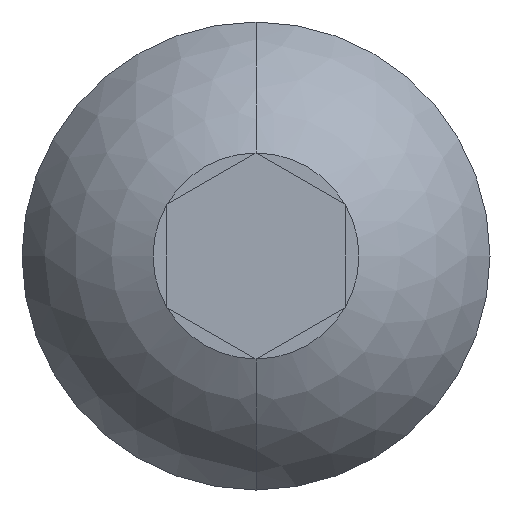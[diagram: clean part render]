
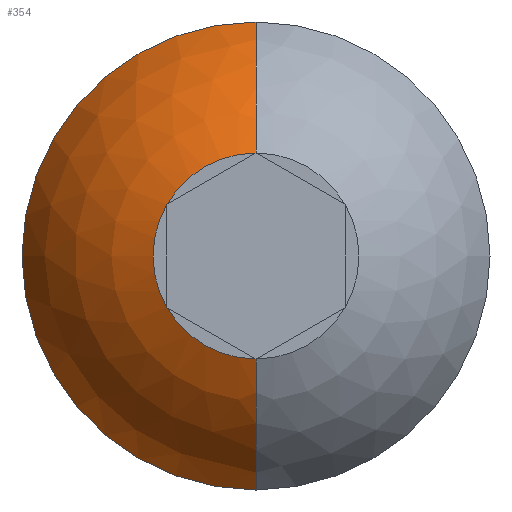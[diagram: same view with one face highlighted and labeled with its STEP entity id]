
A CAD part, front view. The second image highlights one B-rep face of the part: STEP entity #354.
In plain terms, the highlighted spherical face has radius 5.694 mm.
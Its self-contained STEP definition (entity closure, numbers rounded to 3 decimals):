
#57=CARTESIAN_POINT('',(0.,-0.3,0.));
#58=DIRECTION('',(0.,-1.,0.));
#59=DIRECTION('',(-1.,0.,0.));
#60=AXIS2_PLACEMENT_3D('',#57,#58,#59);
#62=CARTESIAN_POINT('',(0.,-0.3,0.));
#63=DIRECTION('',(0.,-1.,0.));
#64=DIRECTION('',(0.,0.,1.));
#65=AXIS2_PLACEMENT_3D('',#62,#63,#64);
#67=CARTESIAN_POINT('',(0.,-3.3,0.));
#68=DIRECTION('',(0.,-1.,0.));
#69=DIRECTION('',(0.,0.,1.));
#70=AXIS2_PLACEMENT_3D('',#67,#68,#69);
#76=CARTESIAN_POINT('',(0.,-3.3,0.));
#77=DIRECTION('',(0.,-1.,0.));
#78=DIRECTION('',(-0.866,0.,0.5));
#79=AXIS2_PLACEMENT_3D('',#76,#77,#78);
#85=CARTESIAN_POINT('',(0.,-3.3,0.));
#86=DIRECTION('',(0.,-1.,0.));
#87=DIRECTION('',(-0.866,0.,-0.5));
#88=AXIS2_PLACEMENT_3D('',#85,#86,#87);
#169=CARTESIAN_POINT('',(0.,1.905,0.));
#170=DIRECTION('',(-1.,0.,0.));
#171=DIRECTION('',(0.,-0.914,0.406));
#172=AXIS2_PLACEMENT_3D('',#169,#170,#171);
#184=CARTESIAN_POINT('',(0.,1.905,0.));
#185=DIRECTION('',(1.,0.,0.));
#186=DIRECTION('',(0.,-0.914,-0.406));
#187=AXIS2_PLACEMENT_3D('',#184,#185,#186);
#221=CARTESIAN_POINT('',(0.,-3.3,2.309));
#222=VERTEX_POINT('',#221);
#223=CARTESIAN_POINT('',(-2.,-3.3,1.155));
#224=VERTEX_POINT('',#223);
#225=CARTESIAN_POINT('',(-2.,-3.3,-1.155));
#226=VERTEX_POINT('',#225);
#227=CARTESIAN_POINT('',(0.,-3.3,-2.309));
#228=VERTEX_POINT('',#227);
#237=CARTESIAN_POINT('',(0.,-0.3,5.25));
#238=CARTESIAN_POINT('',(-5.25,-0.3,0.));
#239=VERTEX_POINT('',#237);
#240=VERTEX_POINT('',#238);
#243=CARTESIAN_POINT('',(0.,-0.3,-5.25));
#244=VERTEX_POINT('',#243);
#334=CARTESIAN_POINT('',(0.,1.905,0.));
#335=DIRECTION('',(0.,-1.,0.));
#336=DIRECTION('',(0.,0.,1.));
#337=AXIS2_PLACEMENT_3D('',#334,#335,#336);
#338=SPHERICAL_SURFACE('',#337,5.694);
#340=ORIENTED_EDGE('',*,*,#339,.T.);
#342=ORIENTED_EDGE('',*,*,#341,.T.);
#344=ORIENTED_EDGE('',*,*,#343,.T.);
#346=ORIENTED_EDGE('',*,*,#345,.T.);
#348=ORIENTED_EDGE('',*,*,#347,.F.);
#349=ORIENTED_EDGE('',*,*,#322,.F.);
#351=ORIENTED_EDGE('',*,*,#350,.F.);
#352=EDGE_LOOP('',(#340,#342,#344,#346,#348,#349,#351));
#353=FACE_OUTER_BOUND('',#352,.F.);
#354=ADVANCED_FACE('',(#353),#338,.T.);
#61=CIRCLE('',#60,5.25);
#66=CIRCLE('',#65,5.25);
#71=CIRCLE('',#70,2.309);
#80=CIRCLE('',#79,2.309);
#89=CIRCLE('',#88,2.309);
#173=CIRCLE('',#172,5.694);
#188=CIRCLE('',#187,5.694);
#322=EDGE_CURVE('',#239,#240,#66,.T.);
#339=EDGE_CURVE('',#222,#224,#71,.T.);
#341=EDGE_CURVE('',#224,#226,#80,.T.);
#343=EDGE_CURVE('',#226,#228,#89,.T.);
#345=EDGE_CURVE('',#228,#244,#188,.T.);
#347=EDGE_CURVE('',#240,#244,#61,.T.);
#350=EDGE_CURVE('',#222,#239,#173,.T.);
